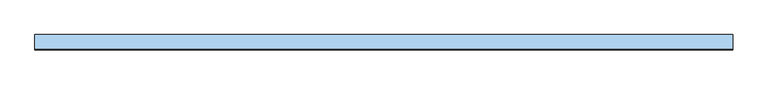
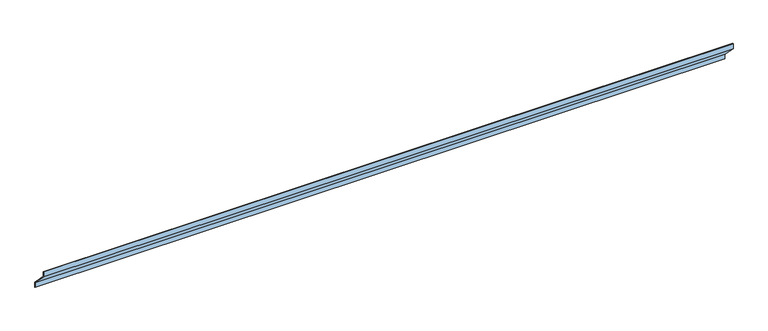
"""IFC4 building model written with IfcOpenShell, lengths in millimetres: window geometry, B2B_Отлив : Отлив_металлический."""

from ifc_helpers import new_model, si_unit, frame, origin, place, context, project, spatial, polyline, outline, extrude, source, transform, mapped, element, save


def window_c86a886d(model_context):
    return source(origin(), model_context, "Body", "SweptSolid", [
        extrude(outline(polyline([(0.0, 29.5956796), (0.0, 40.0), (1.0, 40.0), (1.0, 30.0), (30.0, 0.0), (30.0, -10.0), (29.0, -10.0), (29.0, -0.4043204), (0.0, 29.5956796)])), frame((-685.0, 0.0, 0.0), z_axis=(1.0, 0.0, 0.0), x_axis=(0.0, 1.0, 0.0)), (0.0, 0.0, 1.0), 1370.0),
    ])


if __name__ == "__main__":
    model = new_model("IFC4")
    model_context = context("Model", 3, world=origin())
    ifc_project = project(units=[si_unit("LENGTHUNIT", "METRE", prefix="MILLI")], contexts=[model_context])
    site = spatial("IfcSite", under=ifc_project)
    building = spatial("IfcBuilding", under=site)
    placement = place(None, origin())
    window_shape = window_c86a886d(model_context)
    element("IfcWindow", 1, ObjectType="B2B_Отлив : Отлив_металлический", at=placement, inside=building, context=model_context, shape_type="MappedRepresentation", body=[
        mapped(window_shape, transform((0.0, 0.0, 0.0), x_axis=(1.0, 0.0, 0.0), y_axis=(0.0, 1.0, 0.0), z_axis=(0.0, 0.0, 1.0))),
    ])
    save(model, "model.ifc")
